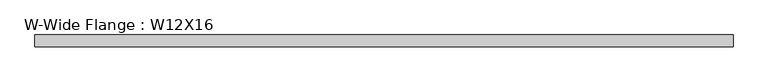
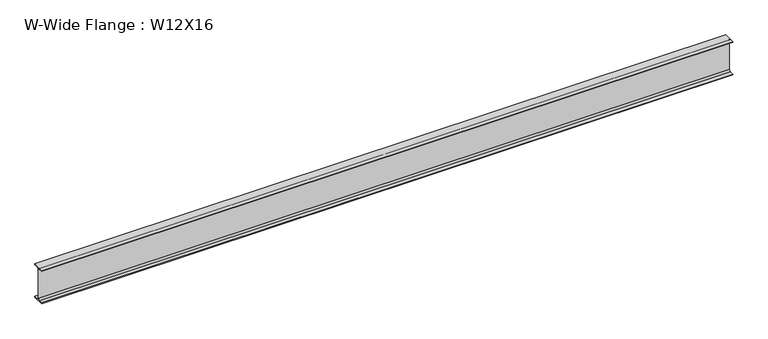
"""IFC4 building model written with IfcOpenShell, lengths in millimetres: beam geometry, W-Wide Flange : W12X16."""

from ifc_helpers import new_model, si_unit, point, frame, frame_2d, origin, place, context, project, spatial, polyline, circle_curve, trimmed, segment, composite_curve, outline, extrude, source, transform, mapped, element, save


def w_wide_flange_w12x16_6d5fce7f(model_context):
    return source(origin(), model_context, "Body", "SweptSolid", [
        extrude(outline(composite_curve([segment(polyline([(50.673, -145.669), (50.673, -152.4), (-50.673, -152.4), (-50.673, -145.669), (-16.7005, -145.669)]), True, "CONTINUOUS"), segment(trimmed(circle_curve(frame_2d((-16.7005, -131.7625)), 13.9065), [point((-16.7005, -145.669))], [point((-2.794, -131.7625))], True, "CARTESIAN"), True, "CONTINUOUS"), segment(polyline([(-2.794, -131.7625), (-2.794, 131.7625)]), True, "CONTINUOUS"), segment(trimmed(circle_curve(frame_2d((-16.7005, 131.7625)), 13.9065), [point((-2.794, 131.7625))], [point((-16.7005, 145.669))], True, "CARTESIAN"), True, "CONTINUOUS"), segment(polyline([(-16.7005, 145.669), (-50.673, 145.669), (-50.673, 152.4), (50.673, 152.4), (50.673, 145.669), (16.7005, 145.669)]), True, "CONTINUOUS"), segment(trimmed(circle_curve(frame_2d((16.7005, 131.7625)), 13.9065), [point((16.7005, 145.669))], [point((2.794, 131.7625))], True, "CARTESIAN"), True, "CONTINUOUS"), segment(polyline([(2.794, 131.7625), (2.794, -131.7625)]), True, "CONTINUOUS"), segment(trimmed(circle_curve(frame_2d((16.7005, -131.7625)), 13.9065), [point((2.794, -131.7625))], [point((16.7005, -145.669))], True, "CARTESIAN"), True, "CONTINUOUS"), segment(polyline([(16.7005, -145.669), (50.673, -145.669)]), True, "CONTINUOUS")], self_intersect=False)), frame((-3048.0, 0.0, 0.0), z_axis=(1.0, 0.0, 0.0), x_axis=(0.0, 1.0, 0.0)), (0.0, 0.0, 1.0), 6011.8625),
    ])


if __name__ == "__main__":
    model = new_model("IFC4")
    model_context = context("Model", 3, world=origin())
    ifc_project = project(units=[si_unit("LENGTHUNIT", "METRE", prefix="MILLI")], contexts=[model_context])
    site = spatial("IfcSite", under=ifc_project)
    building = spatial("IfcBuilding", under=site)
    placement = place(None, origin())
    w_wide_flange_w12x16_shape = w_wide_flange_w12x16_6d5fce7f(model_context)
    element("IfcBeam", 1, ObjectType="W-Wide Flange : W12X16", at=placement, inside=building, context=model_context, shape_type="MappedRepresentation", body=[
        mapped(w_wide_flange_w12x16_shape, transform((0.0, 0.0, 0.0), x_axis=(1.0, 0.0, 0.0), y_axis=(0.0, 1.0, 0.0), z_axis=(0.0, 0.0, 1.0))),
    ])
    save(model, "model.ifc")
